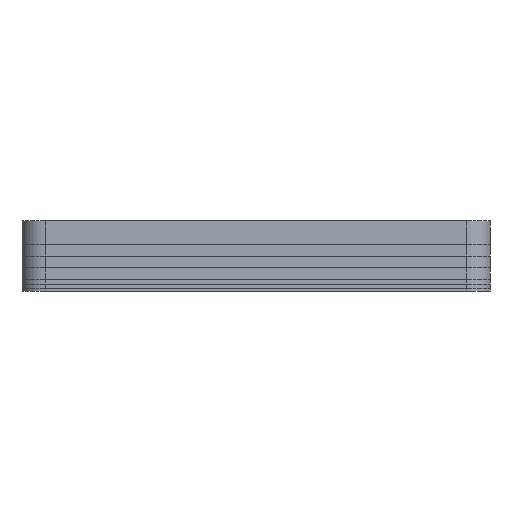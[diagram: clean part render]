
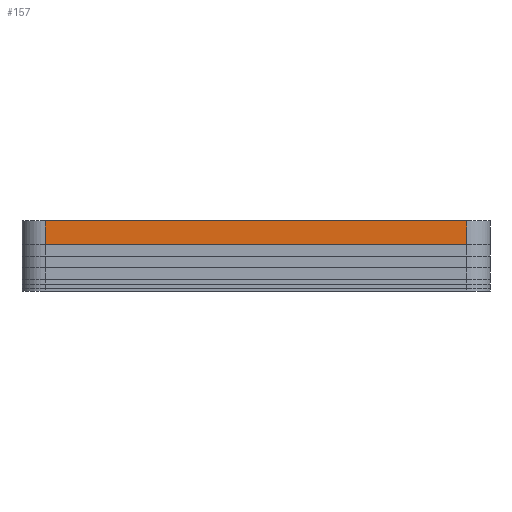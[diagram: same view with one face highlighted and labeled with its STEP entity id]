
A CAD part, left-side view. The second image highlights one B-rep face of the part: STEP entity #157.
In plain terms, the highlighted planar face has unit normal (-1, 0, 0).
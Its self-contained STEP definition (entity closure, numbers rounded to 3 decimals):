
#126 = DIRECTION ( 'NONE',  ( 0., 1., 0. ) ) ;
#157 = ADVANCED_FACE ( 'NONE', ( #2343 ), #3561, .F. ) ;
#202 = EDGE_LOOP ( 'NONE', ( #881, #2286, #704, #2768 ) ) ;
#570 = CARTESIAN_POINT ( 'NONE',  ( -22.5, 19., 1. ) ) ;
#704 = ORIENTED_EDGE ( 'NONE', *, *, #1366, .F. ) ;
#753 = CARTESIAN_POINT ( 'NONE',  ( -22.5, 20., 1. ) ) ;
#881 = ORIENTED_EDGE ( 'NONE', *, *, #1763, .T. ) ;
#898 = LINE ( 'NONE', #1862, #4486 ) ;
#900 = LINE ( 'NONE', #753, #3574 ) ;
#922 = CARTESIAN_POINT ( 'NONE',  ( -22.5, 1., 1. ) ) ;
#1307 = VERTEX_POINT ( 'NONE', #3159 ) ;
#1366 = EDGE_CURVE ( 'NONE', #2381, #3125, #900, .T. ) ;
#1451 = VERTEX_POINT ( 'NONE', #1926 ) ;
#1660 = DIRECTION ( 'NONE',  ( 0., -1., 0. ) ) ;
#1763 = EDGE_CURVE ( 'NONE', #1307, #1451, #898, .T. ) ;
#1862 = CARTESIAN_POINT ( 'NONE',  ( -22.5, 20., 0. ) ) ;
#1926 = CARTESIAN_POINT ( 'NONE',  ( -22.5, 1., 0. ) ) ;
#2202 = VECTOR ( 'NONE', #2688, 1000. ) ;
#2286 = ORIENTED_EDGE ( 'NONE', *, *, #3157, .T. ) ;
#2332 = CARTESIAN_POINT ( 'NONE',  ( -22.5, 19., 1. ) ) ;
#2343 = FACE_OUTER_BOUND ( 'NONE', #202, .T. ) ;
#2367 = CARTESIAN_POINT ( 'NONE',  ( -22.5, 1., 1. ) ) ;
#2381 = VERTEX_POINT ( 'NONE', #2332 ) ;
#2547 = DIRECTION ( 'NONE',  ( 1., 0., 0. ) ) ;
#2592 = CARTESIAN_POINT ( 'NONE',  ( -22.5, 20., 1. ) ) ;
#2657 = VECTOR ( 'NONE', #4444, 1000. ) ;
#2688 = DIRECTION ( 'NONE',  ( 0., 0., -1. ) ) ;
#2768 = ORIENTED_EDGE ( 'NONE', *, *, #2848, .T. ) ;
#2800 = AXIS2_PLACEMENT_3D ( 'NONE', #2592, #2547, #126 ) ;
#2848 = EDGE_CURVE ( 'NONE', #2381, #1307, #4146, .T. ) ;
#3125 = VERTEX_POINT ( 'NONE', #922 ) ;
#3157 = EDGE_CURVE ( 'NONE', #1451, #3125, #3553, .T. ) ;
#3159 = CARTESIAN_POINT ( 'NONE',  ( -22.5, 19., 0. ) ) ;
#3553 = LINE ( 'NONE', #2367, #2657 ) ;
#3561 = PLANE ( 'NONE',  #2800 ) ;
#3574 = VECTOR ( 'NONE', #4237, 1000. ) ;
#4146 = LINE ( 'NONE', #570, #2202 ) ;
#4237 = DIRECTION ( 'NONE',  ( 0., -1., 0. ) ) ;
#4444 = DIRECTION ( 'NONE',  ( 0., 0., 1. ) ) ;
#4486 = VECTOR ( 'NONE', #1660, 1000. ) ;
